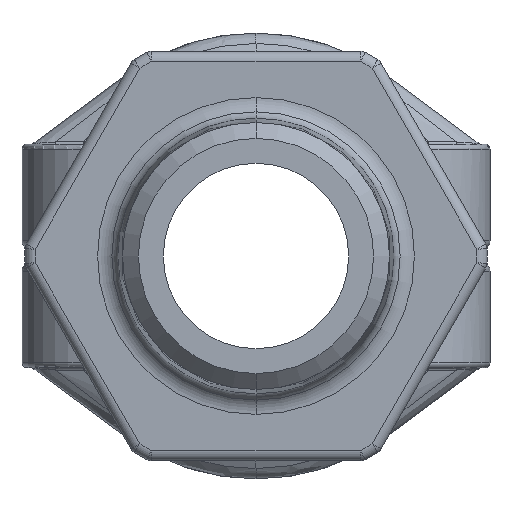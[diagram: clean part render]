
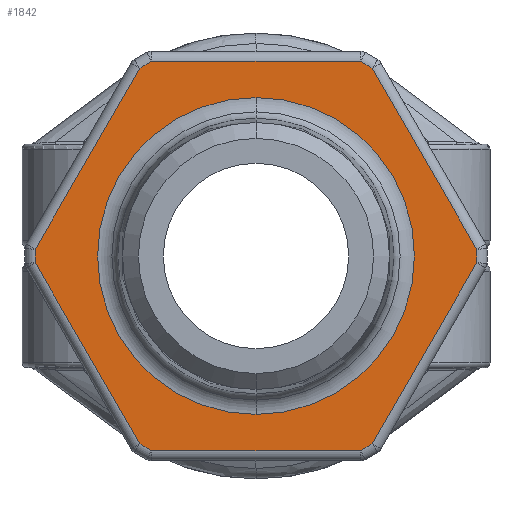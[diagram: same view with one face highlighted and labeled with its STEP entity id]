
A CAD part, left-side view. The second image highlights one B-rep face of the part: STEP entity #1842.
In plain terms, the highlighted planar face has unit normal (-1, 0, 0).
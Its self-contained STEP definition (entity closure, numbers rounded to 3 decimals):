
#161=DIRECTION('',(0.,-0.5,0.866));
#162=VECTOR('',#161,20.529);
#163=CARTESIAN_POINT('',(-43.208,21.695,0.673));
#164=LINE('',#163,#162);
#168=CARTESIAN_POINT('',(-43.208,0.,0.));
#169=DIRECTION('',(1.,0.,0.));
#170=DIRECTION('',(0.,0.527,0.85));
#171=AXIS2_PLACEMENT_3D('',#168,#169,#170);
#176=CARTESIAN_POINT('',(-43.208,0.,0.));
#177=DIRECTION('',(1.,0.,0.));
#178=DIRECTION('',(0.,-0.473,0.881));
#179=AXIS2_PLACEMENT_3D('',#176,#177,#178);
#184=DIRECTION('',(0.,-0.5,-0.866));
#185=VECTOR('',#184,20.529);
#186=CARTESIAN_POINT('',(-43.208,-11.431,18.452));
#187=LINE('',#186,#185);
#191=CARTESIAN_POINT('',(-43.208,0.,0.));
#192=DIRECTION('',(1.,0.,0.));
#193=DIRECTION('',(0.,-1.,0.031));
#194=AXIS2_PLACEMENT_3D('',#191,#192,#193);
#199=DIRECTION('',(0.,0.5,-0.866));
#200=VECTOR('',#199,20.529);
#201=CARTESIAN_POINT('',(-43.208,-21.695,-0.673));
#202=LINE('',#201,#200);
#206=CARTESIAN_POINT('',(-43.208,0.,0.));
#207=DIRECTION('',(1.,0.,0.));
#208=DIRECTION('',(0.,-0.527,-0.85));
#209=AXIS2_PLACEMENT_3D('',#206,#207,#208);
#214=CARTESIAN_POINT('',(-43.208,0.,0.));
#215=DIRECTION('',(1.,0.,0.));
#216=DIRECTION('',(0.,0.473,-0.881));
#217=AXIS2_PLACEMENT_3D('',#214,#215,#216);
#222=DIRECTION('',(0.,0.5,0.866));
#223=VECTOR('',#222,20.529);
#224=CARTESIAN_POINT('',(-43.208,11.431,-18.452));
#225=LINE('',#224,#223);
#229=CARTESIAN_POINT('',(-43.208,0.,0.));
#230=DIRECTION('',(1.,0.,0.));
#231=DIRECTION('',(0.,1.,-0.031));
#232=AXIS2_PLACEMENT_3D('',#229,#230,#231);
#237=CARTESIAN_POINT('',(-43.208,0.,0.));
#238=DIRECTION('',(-1.,0.,0.));
#239=DIRECTION('',(0.,0.,-1.));
#240=AXIS2_PLACEMENT_3D('',#237,#238,#239);
#245=CARTESIAN_POINT('',(-43.208,0.,0.));
#246=DIRECTION('',(-1.,0.,0.));
#247=DIRECTION('',(0.,0.,1.));
#248=AXIS2_PLACEMENT_3D('',#245,#246,#247);
#430=DIRECTION('',(0.,-1.,0.));
#431=VECTOR('',#430,20.529);
#432=CARTESIAN_POINT('',(-43.208,10.264,-19.125));
#433=LINE('',#432,#431);
#699=DIRECTION('',(0.,1.,0.));
#700=VECTOR('',#699,20.529);
#701=CARTESIAN_POINT('',(-43.208,-10.264,19.125));
#702=LINE('',#701,#700);
#1513=CARTESIAN_POINT('',(-43.208,0.,15.573));
#1514=CARTESIAN_POINT('',(-43.208,0.,-15.573));
#1515=VERTEX_POINT('',#1513);
#1516=VERTEX_POINT('',#1514);
#1517=CARTESIAN_POINT('',(-43.208,21.695,0.673));
#1518=CARTESIAN_POINT('',(-43.208,11.431,18.452));
#1519=VERTEX_POINT('',#1517);
#1520=VERTEX_POINT('',#1518);
#1521=CARTESIAN_POINT('',(-43.208,10.264,19.125));
#1522=VERTEX_POINT('',#1521);
#1523=CARTESIAN_POINT('',(-43.208,-10.264,19.125));
#1524=VERTEX_POINT('',#1523);
#1525=CARTESIAN_POINT('',(-43.208,-11.431,18.452));
#1526=VERTEX_POINT('',#1525);
#1527=CARTESIAN_POINT('',(-43.208,-21.695,0.673));
#1528=VERTEX_POINT('',#1527);
#1529=CARTESIAN_POINT('',(-43.208,-21.695,-0.673));
#1530=VERTEX_POINT('',#1529);
#1531=CARTESIAN_POINT('',(-43.208,-11.431,-18.452));
#1532=VERTEX_POINT('',#1531);
#1533=CARTESIAN_POINT('',(-43.208,-10.264,-19.125));
#1534=VERTEX_POINT('',#1533);
#1535=CARTESIAN_POINT('',(-43.208,10.264,-19.125));
#1536=VERTEX_POINT('',#1535);
#1537=CARTESIAN_POINT('',(-43.208,11.431,-18.452));
#1538=VERTEX_POINT('',#1537);
#1539=CARTESIAN_POINT('',(-43.208,21.695,-0.673));
#1540=VERTEX_POINT('',#1539);
#1806=CARTESIAN_POINT('',(-43.208,22.717,0.));
#1807=DIRECTION('',(1.,0.,0.));
#1808=DIRECTION('',(0.,0.,-1.));
#1809=AXIS2_PLACEMENT_3D('',#1806,#1807,#1808);
#1810=PLANE('',#1809);
#1812=ORIENTED_EDGE('',*,*,#1811,.T.);
#1814=ORIENTED_EDGE('',*,*,#1813,.T.);
#1816=ORIENTED_EDGE('',*,*,#1815,.F.);
#1818=ORIENTED_EDGE('',*,*,#1817,.T.);
#1820=ORIENTED_EDGE('',*,*,#1819,.T.);
#1822=ORIENTED_EDGE('',*,*,#1821,.T.);
#1824=ORIENTED_EDGE('',*,*,#1823,.T.);
#1826=ORIENTED_EDGE('',*,*,#1825,.T.);
#1828=ORIENTED_EDGE('',*,*,#1827,.F.);
#1830=ORIENTED_EDGE('',*,*,#1829,.T.);
#1832=ORIENTED_EDGE('',*,*,#1831,.T.);
#1834=ORIENTED_EDGE('',*,*,#1833,.T.);
#1835=EDGE_LOOP('',(#1812,#1814,#1816,#1818,#1820,#1822,#1824,#1826,#1828,#1830,
#1832,#1834));
#1836=FACE_OUTER_BOUND('',#1835,.F.);
#1838=ORIENTED_EDGE('',*,*,#1837,.T.);
#1839=ORIENTED_EDGE('',*,*,#1796,.T.);
#1840=EDGE_LOOP('',(#1838,#1839));
#1841=FACE_BOUND('',#1840,.F.);
#172=CIRCLE('',#171,21.705);
#180=CIRCLE('',#179,21.705);
#195=CIRCLE('',#194,21.705);
#210=CIRCLE('',#209,21.705);
#218=CIRCLE('',#217,21.705);
#233=CIRCLE('',#232,21.705);
#241=CIRCLE('',#240,15.573);
#249=CIRCLE('',#248,15.573);
#1796=EDGE_CURVE('',#1515,#1516,#249,.T.);
#1811=EDGE_CURVE('',#1519,#1520,#164,.T.);
#1813=EDGE_CURVE('',#1520,#1522,#172,.T.);
#1815=EDGE_CURVE('',#1524,#1522,#702,.T.);
#1817=EDGE_CURVE('',#1524,#1526,#180,.T.);
#1819=EDGE_CURVE('',#1526,#1528,#187,.T.);
#1821=EDGE_CURVE('',#1528,#1530,#195,.T.);
#1823=EDGE_CURVE('',#1530,#1532,#202,.T.);
#1825=EDGE_CURVE('',#1532,#1534,#210,.T.);
#1827=EDGE_CURVE('',#1536,#1534,#433,.T.);
#1829=EDGE_CURVE('',#1536,#1538,#218,.T.);
#1831=EDGE_CURVE('',#1538,#1540,#225,.T.);
#1833=EDGE_CURVE('',#1540,#1519,#233,.T.);
#1837=EDGE_CURVE('',#1516,#1515,#241,.T.);
#1842=ADVANCED_FACE('',(#1836,#1841),#1810,.F.);
